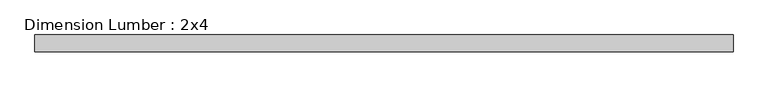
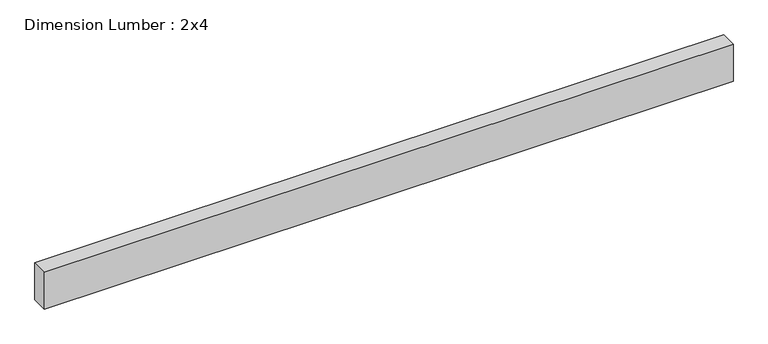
"""IFC4 building model written with IfcOpenShell, lengths in millimetres: beam geometry, Dimension Lumber : 2x4."""

from ifc_helpers import new_model, si_unit, frame, origin, place, context, project, spatial, polyline, outline, extrude, source, transform, mapped, element, save


def dimension_lumber_2x4_8a3b198e(model_context):
    return source(origin(), model_context, "Body", "SweptSolid", [
        extrude(outline(polyline([(791.3227249, 19.05), (791.3227249, -19.05), (-791.3227249, -19.05), (-791.3227249, 19.05), (791.3227249, 19.05)])), frame((0.0, 0.0, -44.45), z_axis=(0.0, 0.0, 1.0), x_axis=(1.0, 0.0, 0.0)), (0.0, 0.0, 1.0), 88.9),
    ])


if __name__ == "__main__":
    model = new_model("IFC4")
    model_context = context("Model", 3, world=origin())
    ifc_project = project(units=[si_unit("LENGTHUNIT", "METRE", prefix="MILLI")], contexts=[model_context])
    site = spatial("IfcSite", under=ifc_project)
    building = spatial("IfcBuilding", under=site)
    placement = place(None, origin())
    dimension_lumber_2x4_shape = dimension_lumber_2x4_8a3b198e(model_context)
    element("IfcBeam", 1, ObjectType="Dimension Lumber : 2x4", at=placement, inside=building, context=model_context, shape_type="MappedRepresentation", body=[
        mapped(dimension_lumber_2x4_shape, transform((0.0, 0.0, 0.0), x_axis=(1.0, 0.0, 0.0), y_axis=(0.0, 1.0, 0.0), z_axis=(0.0, 0.0, 1.0))),
    ])
    save(model, "model.ifc")
